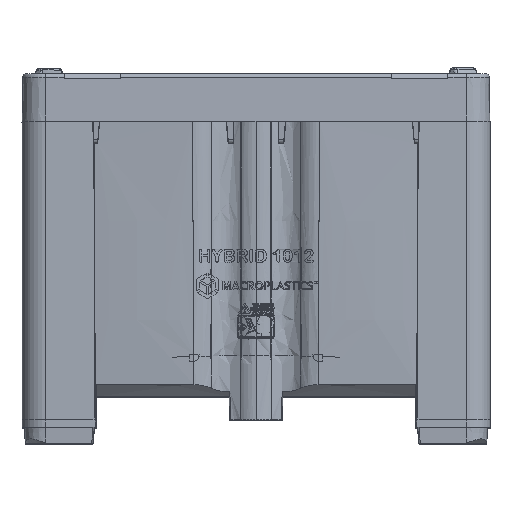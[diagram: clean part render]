
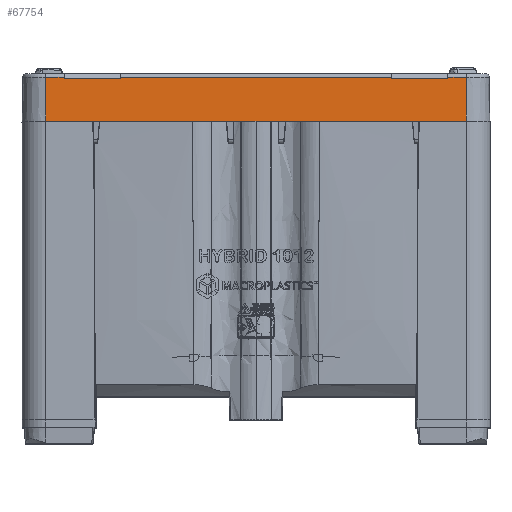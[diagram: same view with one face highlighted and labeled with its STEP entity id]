
A CAD part, top view. The second image highlights one B-rep face of the part: STEP entity #67754.
In plain terms, the highlighted planar face has unit normal (0, 0.018, 1).
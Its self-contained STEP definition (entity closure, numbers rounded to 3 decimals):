
#469 = EDGE_CURVE ( 'NONE', #250855, #222085, #35741, .T. ) ;
#1277 = EDGE_CURVE ( 'NONE', #222085, #112421, #222379, .T. ) ;
#1715 = EDGE_CURVE ( 'NONE', #280446, #224810, #120730, .T. ) ;
#3553 = LINE ( 'NONE', #304523, #133598 ) ;
#10947 = DIRECTION ( 'NONE',  ( -0.012, 1., -0.017 ) ) ;
#11266 = VECTOR ( 'NONE', #32411, 1000. ) ;
#19684 = DIRECTION ( 'NONE',  ( -1., 0., 0. ) ) ;
#22909 = DIRECTION ( 'NONE',  ( -1., 0., 0. ) ) ;
#26795 = VECTOR ( 'NONE', #320828, 1000. ) ;
#31585 = DIRECTION ( 'NONE',  ( -0.012, 1., -0.017 ) ) ;
#32411 = DIRECTION ( 'NONE',  ( 0., 1., -0.017 ) ) ;
#35711 = VECTOR ( 'NONE', #31585, 1000. ) ;
#35741 = LINE ( 'NONE', #109600, #11266 ) ;
#36497 = VECTOR ( 'NONE', #19684, 1000. ) ;
#38306 = CARTESIAN_POINT ( 'NONE',  ( -289.867, 790.185, 598.223 ) ) ;
#38462 = CARTESIAN_POINT ( 'NONE',  ( -449.2, 688.4, 600. ) ) ;
#39489 = DIRECTION ( 'NONE',  ( 0., 0.017, 1. ) ) ;
#57087 = ORIENTED_EDGE ( 'NONE', *, *, #246494, .T. ) ;
#60674 = ORIENTED_EDGE ( 'NONE', *, *, #137014, .T. ) ;
#60718 = CARTESIAN_POINT ( 'NONE',  ( -410.035, 782.14, 598.364 ) ) ;
#67754 = ADVANCED_FACE ( 'NONE', ( #174622 ), #302757, .T. ) ;
#72854 = DIRECTION ( 'NONE',  ( 1., 0., 0. ) ) ;
#80230 = DIRECTION ( 'NONE',  ( 1., 0., 0. ) ) ;
#81239 = DIRECTION ( 'NONE',  ( 0., 1., -0.017 ) ) ;
#95752 = CARTESIAN_POINT ( 'NONE',  ( 0., 782.14, 598.364 ) ) ;
#97645 = ORIENTED_EDGE ( 'NONE', *, *, #1277, .F. ) ;
#99287 = VECTOR ( 'NONE', #80230, 1000. ) ;
#103892 = CARTESIAN_POINT ( 'NONE',  ( 0., 782.14, 598.364 ) ) ;
#106471 = CARTESIAN_POINT ( 'NONE',  ( 289.867, 790.185, 598.223 ) ) ;
#108991 = VECTOR ( 'NONE', #22909, 1000. ) ;
#109600 = CARTESIAN_POINT ( 'NONE',  ( -449.2, 688.4, 600. ) ) ;
#112421 = VERTEX_POINT ( 'NONE', #60718 ) ;
#115452 = ORIENTED_EDGE ( 'NONE', *, *, #121039, .F. ) ;
#116222 = ORIENTED_EDGE ( 'NONE', *, *, #142922, .F. ) ;
#119219 = LINE ( 'NONE', #38306, #160035 ) ;
#120730 = LINE ( 'NONE', #106471, #319799 ) ;
#121039 = EDGE_CURVE ( 'NONE', #297860, #289186, #165029, .T. ) ;
#121364 = LINE ( 'NONE', #279530, #108991 ) ;
#124007 = CARTESIAN_POINT ( 'NONE',  ( -449.2, 782.14, 598.364 ) ) ;
#133598 = VECTOR ( 'NONE', #72854, 1000. ) ;
#133728 = VECTOR ( 'NONE', #273262, 1000. ) ;
#134673 = EDGE_LOOP ( 'NONE', ( #57087, #116222, #302971, #152674, #97645, #143283, #197413, #183067, #60674, #115452, #249051, #189325 ) ) ;
#136360 = EDGE_CURVE ( 'NONE', #297860, #280446, #255541, .T. ) ;
#137014 = EDGE_CURVE ( 'NONE', #281913, #289186, #121364, .T. ) ;
#138299 = EDGE_CURVE ( 'NONE', #192548, #112421, #336309, .T. ) ;
#142922 = EDGE_CURVE ( 'NONE', #266923, #174216, #119219, .T. ) ;
#143283 = ORIENTED_EDGE ( 'NONE', *, *, #469, .F. ) ;
#152674 = ORIENTED_EDGE ( 'NONE', *, *, #138299, .T. ) ;
#153342 = VECTOR ( 'NONE', #209417, 1000. ) ;
#153663 = CARTESIAN_POINT ( 'NONE',  ( 449.2, 782.14, 598.364 ) ) ;
#160035 = VECTOR ( 'NONE', #268788, 1000. ) ;
#165029 = LINE ( 'NONE', #192557, #26795 ) ;
#168984 = CARTESIAN_POINT ( 'NONE',  ( 0., 688.4, 600. ) ) ;
#174216 = VERTEX_POINT ( 'NONE', #232998 ) ;
#174622 = FACE_OUTER_BOUND ( 'NONE', #134673, .T. ) ;
#180765 = CARTESIAN_POINT ( 'NONE',  ( 449.2, 688.4, 600. ) ) ;
#180826 = LINE ( 'NONE', #235755, #99287 ) ;
#183067 = ORIENTED_EDGE ( 'NONE', *, *, #236192, .T. ) ;
#189325 = ORIENTED_EDGE ( 'NONE', *, *, #1715, .T. ) ;
#189406 = VECTOR ( 'NONE', #81239, 1000. ) ;
#191886 = EDGE_CURVE ( 'NONE', #192548, #266923, #3553, .T. ) ;
#192548 = VERTEX_POINT ( 'NONE', #239195 ) ;
#192557 = CARTESIAN_POINT ( 'NONE',  ( 410.133, 790.185, 598.223 ) ) ;
#197413 = ORIENTED_EDGE ( 'NONE', *, *, #334303, .T. ) ;
#208498 = CARTESIAN_POINT ( 'NONE',  ( 410., 779.301, 598.413 ) ) ;
#209417 = DIRECTION ( 'NONE',  ( 1., 0., 0. ) ) ;
#221104 = DIRECTION ( 'NONE',  ( 0., -1., 0.017 ) ) ;
#222085 = VERTEX_POINT ( 'NONE', #124007 ) ;
#222379 = LINE ( 'NONE', #103892, #153342 ) ;
#224810 = VERTEX_POINT ( 'NONE', #251523 ) ;
#232998 = CARTESIAN_POINT ( 'NONE',  ( -289.965, 782.14, 598.364 ) ) ;
#235438 = CARTESIAN_POINT ( 'NONE',  ( 410.035, 782.14, 598.364 ) ) ;
#235755 = CARTESIAN_POINT ( 'NONE',  ( 0., 688.4, 600. ) ) ;
#236192 = EDGE_CURVE ( 'NONE', #306182, #281913, #266561, .T. ) ;
#239195 = CARTESIAN_POINT ( 'NONE',  ( -410., 779.301, 598.413 ) ) ;
#241492 = CARTESIAN_POINT ( 'NONE',  ( -410.133, 790.185, 598.223 ) ) ;
#246494 = EDGE_CURVE ( 'NONE', #224810, #174216, #263841, .T. ) ;
#249051 = ORIENTED_EDGE ( 'NONE', *, *, #136360, .T. ) ;
#250855 = VERTEX_POINT ( 'NONE', #38462 ) ;
#251523 = CARTESIAN_POINT ( 'NONE',  ( 289.965, 782.14, 598.364 ) ) ;
#255541 = LINE ( 'NONE', #324354, #133728 ) ;
#263841 = LINE ( 'NONE', #95752, #36497 ) ;
#264036 = CARTESIAN_POINT ( 'NONE',  ( 449.2, 688.4, 600. ) ) ;
#266561 = LINE ( 'NONE', #264036, #189406 ) ;
#266923 = VERTEX_POINT ( 'NONE', #269924 ) ;
#268788 = DIRECTION ( 'NONE',  ( 0.012, 1., -0.017 ) ) ;
#269924 = CARTESIAN_POINT ( 'NONE',  ( -290., 779.301, 598.413 ) ) ;
#273262 = DIRECTION ( 'NONE',  ( -1., 0., 0. ) ) ;
#279530 = CARTESIAN_POINT ( 'NONE',  ( 0., 782.14, 598.364 ) ) ;
#280446 = VERTEX_POINT ( 'NONE', #302249 ) ;
#281913 = VERTEX_POINT ( 'NONE', #153663 ) ;
#289186 = VERTEX_POINT ( 'NONE', #235438 ) ;
#297786 = AXIS2_PLACEMENT_3D ( 'NONE', #168984, #39489, #221104 ) ;
#297860 = VERTEX_POINT ( 'NONE', #208498 ) ;
#302249 = CARTESIAN_POINT ( 'NONE',  ( 290., 779.301, 598.413 ) ) ;
#302757 = PLANE ( 'NONE',  #297786 ) ;
#302971 = ORIENTED_EDGE ( 'NONE', *, *, #191886, .F. ) ;
#304523 = CARTESIAN_POINT ( 'NONE',  ( -410., 779.301, 598.413 ) ) ;
#306182 = VERTEX_POINT ( 'NONE', #180765 ) ;
#319799 = VECTOR ( 'NONE', #10947, 1000. ) ;
#320828 = DIRECTION ( 'NONE',  ( 0.012, 1., -0.017 ) ) ;
#324354 = CARTESIAN_POINT ( 'NONE',  ( 410., 779.301, 598.413 ) ) ;
#334303 = EDGE_CURVE ( 'NONE', #250855, #306182, #180826, .T. ) ;
#336309 = LINE ( 'NONE', #241492, #35711 ) ;
